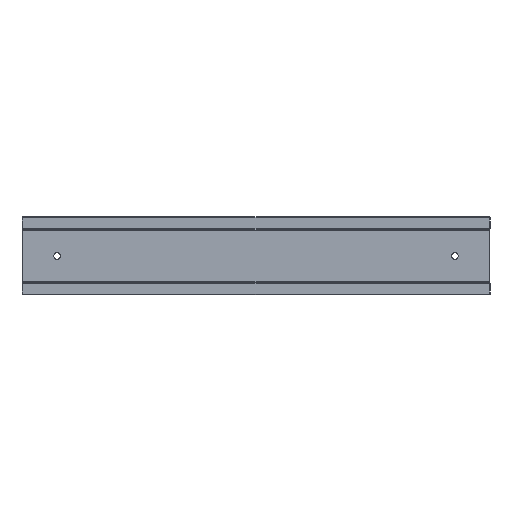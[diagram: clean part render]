
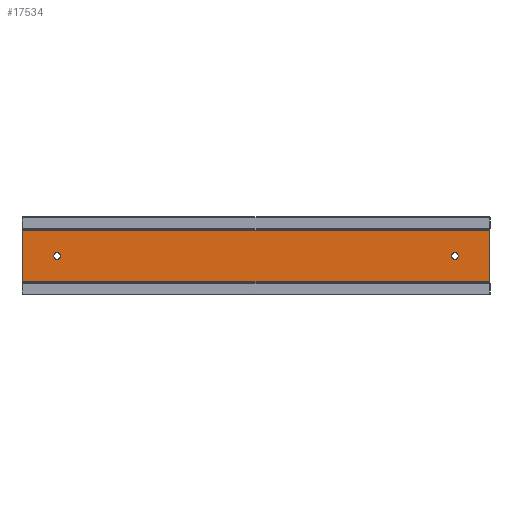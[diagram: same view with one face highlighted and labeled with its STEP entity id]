
A CAD part, front view. The second image highlights one B-rep face of the part: STEP entity #17534.
In plain terms, the highlighted planar face has unit normal (0, -1, 0).
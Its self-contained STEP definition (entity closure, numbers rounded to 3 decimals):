
#424 = AXIS2_PLACEMENT_3D ( 'NONE', #27371, #20352, #29763 ) ;
#1320 = CARTESIAN_POINT ( 'NONE',  ( -299.138, 242.151, 546.696 ) ) ;
#1366 = DIRECTION ( 'NONE',  ( 0., -1., 0. ) ) ;
#2047 = VERTEX_POINT ( 'NONE', #17355 ) ;
#2083 = DIRECTION ( 'NONE',  ( 1., 0., 0. ) ) ;
#2101 = DIRECTION ( 'NONE',  ( 0., 0., -1. ) ) ;
#2735 = CIRCLE ( 'NONE', #27464, 2.1 ) ;
#3531 = CIRCLE ( 'NONE', #424, 2.1 ) ;
#3659 = DIRECTION ( 'NONE',  ( 0., 0., -1. ) ) ;
#4003 = AXIS2_PLACEMENT_3D ( 'NONE', #16089, #11284, #2101 ) ;
#4183 = ORIENTED_EDGE ( 'NONE', *, *, #14725, .T. ) ;
#4655 = LINE ( 'NONE', #15524, #16351 ) ;
#5340 = VERTEX_POINT ( 'NONE', #17928 ) ;
#5898 = ORIENTED_EDGE ( 'NONE', *, *, #7961, .F. ) ;
#7038 = DIRECTION ( 'NONE',  ( -1., 0., 0. ) ) ;
#7438 = FACE_BOUND ( 'NONE', #14912, .T. ) ;
#7623 = AXIS2_PLACEMENT_3D ( 'NONE', #25438, #13717, #18492 ) ;
#7961 = EDGE_CURVE ( 'NONE', #2047, #29828, #16787, .T. ) ;
#8500 = ORIENTED_EDGE ( 'NONE', *, *, #14461, .T. ) ;
#9379 = VERTEX_POINT ( 'NONE', #9658 ) ;
#9658 = CARTESIAN_POINT ( 'NONE',  ( -277.138, 242.151, 527.596 ) ) ;
#9774 = VERTEX_POINT ( 'NONE', #21421 ) ;
#11103 = CARTESIAN_POINT ( 'NONE',  ( -0.138, 242.151, 513.196 ) ) ;
#11284 = DIRECTION ( 'NONE',  ( 0., -1., 0. ) ) ;
#11602 = ORIENTED_EDGE ( 'NONE', *, *, #25505, .F. ) ;
#11719 = VERTEX_POINT ( 'NONE', #11103 ) ;
#12805 = VECTOR ( 'NONE', #7038, 1000. ) ;
#13239 = ORIENTED_EDGE ( 'NONE', *, *, #25914, .F. ) ;
#13243 = DIRECTION ( 'NONE',  ( 0., 0., -1. ) ) ;
#13352 = DIRECTION ( 'NONE',  ( 0., -1., 0. ) ) ;
#13717 = DIRECTION ( 'NONE',  ( 0., 1., 0. ) ) ;
#13870 = VECTOR ( 'NONE', #3659, 1000. ) ;
#14461 = EDGE_CURVE ( 'NONE', #15227, #9774, #17525, .T. ) ;
#14618 = LINE ( 'NONE', #1320, #13870 ) ;
#14725 = EDGE_CURVE ( 'NONE', #9774, #5340, #14618, .T. ) ;
#14912 = EDGE_LOOP ( 'NONE', ( #25305, #5898 ) ) ;
#15087 = EDGE_CURVE ( 'NONE', #11719, #15227, #4655, .T. ) ;
#15227 = VERTEX_POINT ( 'NONE', #25000 ) ;
#15234 = LINE ( 'NONE', #22858, #23170 ) ;
#15500 = FACE_OUTER_BOUND ( 'NONE', #22785, .T. ) ;
#15524 = CARTESIAN_POINT ( 'NONE',  ( -0.138, 242.151, 546.696 ) ) ;
#16054 = CARTESIAN_POINT ( 'NONE',  ( -22.138, 242.151, 527.596 ) ) ;
#16089 = CARTESIAN_POINT ( 'NONE',  ( -22.138, 242.151, 529.696 ) ) ;
#16351 = VECTOR ( 'NONE', #20182, 1000. ) ;
#16551 = CARTESIAN_POINT ( 'NONE',  ( -299.638, 242.151, 546.196 ) ) ;
#16787 = CIRCLE ( 'NONE', #27662, 2.1 ) ;
#17355 = CARTESIAN_POINT ( 'NONE',  ( -22.138, 242.151, 531.796 ) ) ;
#17525 = LINE ( 'NONE', #16551, #12805 ) ;
#17534 = ADVANCED_FACE ( 'NONE', ( #15500, #7438, #19883 ), #25537, .F. ) ;
#17928 = CARTESIAN_POINT ( 'NONE',  ( -299.138, 242.151, 513.196 ) ) ;
#18492 = DIRECTION ( 'NONE',  ( 0., 0., 1. ) ) ;
#19763 = EDGE_CURVE ( 'NONE', #29828, #2047, #21573, .T. ) ;
#19883 = FACE_BOUND ( 'NONE', #22093, .T. ) ;
#20182 = DIRECTION ( 'NONE',  ( 0., 0., 1. ) ) ;
#20352 = DIRECTION ( 'NONE',  ( 0., -1., 0. ) ) ;
#20740 = CARTESIAN_POINT ( 'NONE',  ( -277.138, 242.151, 531.796 ) ) ;
#21421 = CARTESIAN_POINT ( 'NONE',  ( -299.138, 242.151, 546.196 ) ) ;
#21573 = CIRCLE ( 'NONE', #4003, 2.1 ) ;
#22093 = EDGE_LOOP ( 'NONE', ( #11602, #13239 ) ) ;
#22526 = CARTESIAN_POINT ( 'NONE',  ( -22.138, 242.151, 529.696 ) ) ;
#22663 = VERTEX_POINT ( 'NONE', #20740 ) ;
#22785 = EDGE_LOOP ( 'NONE', ( #8500, #4183, #24115, #23164 ) ) ;
#22858 = CARTESIAN_POINT ( 'NONE',  ( 0.362, 242.151, 513.196 ) ) ;
#23164 = ORIENTED_EDGE ( 'NONE', *, *, #15087, .T. ) ;
#23170 = VECTOR ( 'NONE', #2083, 1000. ) ;
#24115 = ORIENTED_EDGE ( 'NONE', *, *, #25582, .T. ) ;
#24767 = CARTESIAN_POINT ( 'NONE',  ( -277.138, 242.151, 529.696 ) ) ;
#25000 = CARTESIAN_POINT ( 'NONE',  ( -0.138, 242.151, 546.196 ) ) ;
#25305 = ORIENTED_EDGE ( 'NONE', *, *, #19763, .F. ) ;
#25438 = CARTESIAN_POINT ( 'NONE',  ( -299.638, 242.151, 546.696 ) ) ;
#25505 = EDGE_CURVE ( 'NONE', #9379, #22663, #3531, .T. ) ;
#25537 = PLANE ( 'NONE',  #7623 ) ;
#25582 = EDGE_CURVE ( 'NONE', #5340, #11719, #15234, .T. ) ;
#25914 = EDGE_CURVE ( 'NONE', #22663, #9379, #2735, .T. ) ;
#26858 = DIRECTION ( 'NONE',  ( 0., 0., -1. ) ) ;
#27371 = CARTESIAN_POINT ( 'NONE',  ( -277.138, 242.151, 529.696 ) ) ;
#27464 = AXIS2_PLACEMENT_3D ( 'NONE', #24767, #13352, #13243 ) ;
#27662 = AXIS2_PLACEMENT_3D ( 'NONE', #22526, #1366, #26858 ) ;
#29763 = DIRECTION ( 'NONE',  ( 0., 0., -1. ) ) ;
#29828 = VERTEX_POINT ( 'NONE', #16054 ) ;
